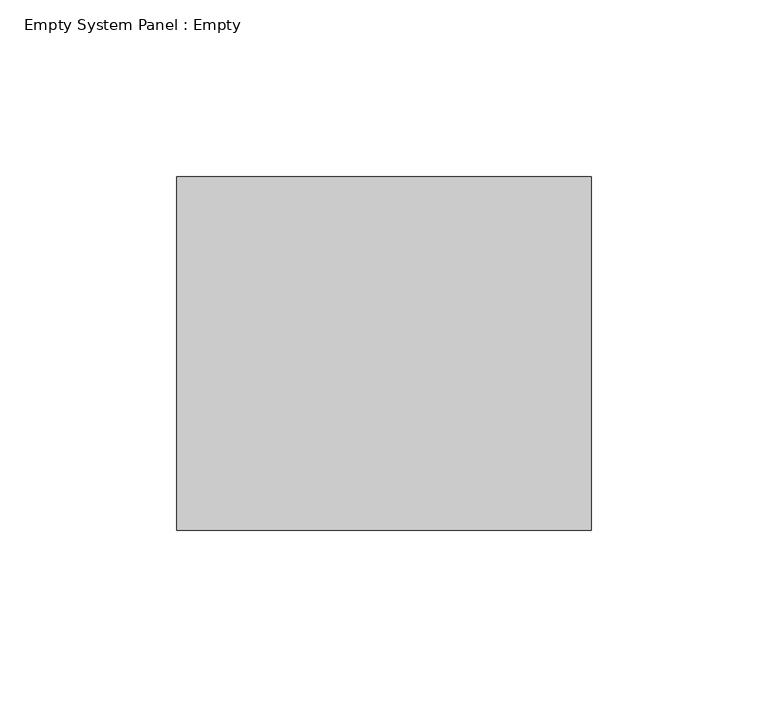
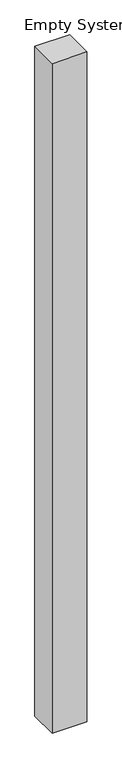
"""IFC4 building model written with IfcOpenShell, lengths in millimetres: plate geometry, Empty System Panel : Empty."""

from ifc_helpers import new_model, si_unit, origin, origin_with_axes, place, context, project, spatial, polyline, outline, extrude, source, transform, mapped, element, save


def empty_system_panel_empty_ddea43da(model_context):
    return source(origin(), model_context, "Body", "SweptSolid", [
        extrude(outline(polyline([(58.6069043, -50.0), (-58.6069043, -50.0), (-58.6069043, 50.0), (58.6069043, 50.0), (58.6069043, -50.0)])), origin_with_axes(), (0.0, 0.0, 1.0), 2380.0),
    ])


if __name__ == "__main__":
    model = new_model("IFC4")
    model_context = context("Model", 3, world=origin())
    ifc_project = project(units=[si_unit("LENGTHUNIT", "METRE", prefix="MILLI")], contexts=[model_context])
    site = spatial("IfcSite", under=ifc_project)
    building = spatial("IfcBuilding", under=site)
    placement = place(None, origin())
    empty_system_panel_empty_shape = empty_system_panel_empty_ddea43da(model_context)
    element("IfcPlate", 1, ObjectType="Empty System Panel : Empty", at=placement, inside=building, context=model_context, shape_type="MappedRepresentation", body=[
        mapped(empty_system_panel_empty_shape, transform((0.0, 0.0, 0.0), x_axis=(1.0, 0.0, 0.0), y_axis=(0.0, 1.0, 0.0), z_axis=(0.0, 0.0, 1.0))),
    ])
    save(model, "model.ifc")
